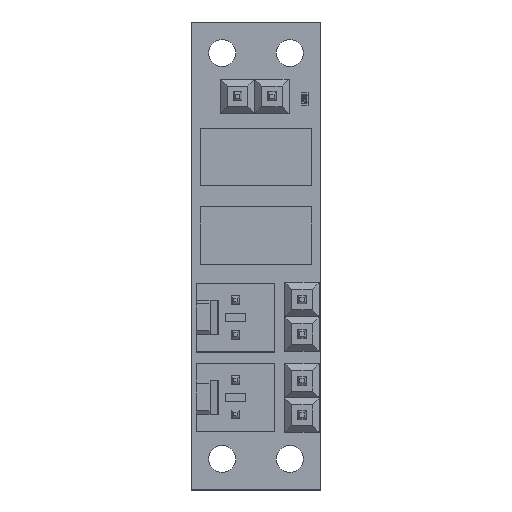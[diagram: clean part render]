
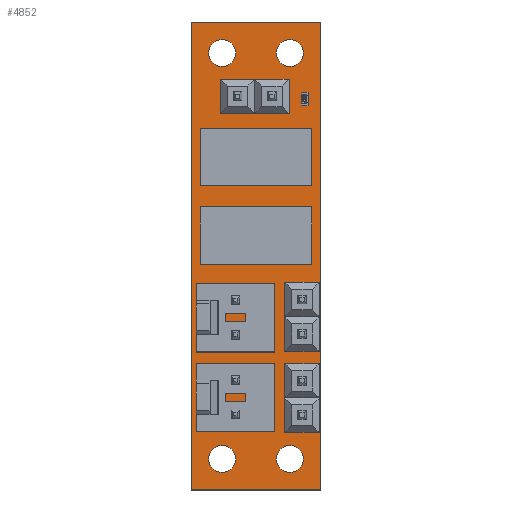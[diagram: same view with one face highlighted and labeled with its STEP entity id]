
A CAD part, top view. The second image highlights one B-rep face of the part: STEP entity #4852.
In plain terms, the highlighted planar face has unit normal (0, 0, 1).
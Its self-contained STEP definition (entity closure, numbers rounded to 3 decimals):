
#317=CIRCLE('',#5206,0.508);
#319=CIRCLE('',#5209,0.508);
#321=CIRCLE('',#5212,0.508);
#323=CIRCLE('',#5215,0.555);
#325=CIRCLE('',#5218,0.555);
#327=CIRCLE('',#5221,0.555);
#329=CIRCLE('',#5224,0.555);
#331=CIRCLE('',#5227,0.508);
#333=CIRCLE('',#5230,0.508);
#335=CIRCLE('',#5233,0.508);
#336=CIRCLE('',#5235,1.);
#338=CIRCLE('',#5238,1.);
#340=CIRCLE('',#5241,1.);
#342=CIRCLE('',#5244,1.);
#384=FACE_BOUND('',#932,.T.);
#385=FACE_BOUND('',#933,.T.);
#386=FACE_BOUND('',#934,.T.);
#387=FACE_BOUND('',#935,.T.);
#388=FACE_BOUND('',#936,.T.);
#389=FACE_BOUND('',#937,.T.);
#390=FACE_BOUND('',#938,.T.);
#391=FACE_BOUND('',#939,.T.);
#392=FACE_BOUND('',#940,.T.);
#393=FACE_BOUND('',#941,.T.);
#394=FACE_BOUND('',#942,.T.);
#395=FACE_BOUND('',#943,.T.);
#396=FACE_BOUND('',#944,.T.);
#397=FACE_BOUND('',#945,.T.);
#658=FACE_OUTER_BOUND('',#931,.T.);
#931=EDGE_LOOP('',(#4224,#4225,#4226,#4227));
#932=EDGE_LOOP('',(#4228));
#933=EDGE_LOOP('',(#4229));
#934=EDGE_LOOP('',(#4230));
#935=EDGE_LOOP('',(#4231));
#936=EDGE_LOOP('',(#4232));
#937=EDGE_LOOP('',(#4233));
#938=EDGE_LOOP('',(#4234));
#939=EDGE_LOOP('',(#4235));
#940=EDGE_LOOP('',(#4236));
#941=EDGE_LOOP('',(#4237));
#942=EDGE_LOOP('',(#4238));
#943=EDGE_LOOP('',(#4239));
#944=EDGE_LOOP('',(#4240));
#945=EDGE_LOOP('',(#4241));
#1384=LINE('',#8240,#1817);
#1387=LINE('',#8246,#1820);
#1390=LINE('',#8252,#1823);
#1393=LINE('',#8256,#1826);
#1817=VECTOR('',#6363,10.);
#1820=VECTOR('',#6368,10.);
#1823=VECTOR('',#6373,10.);
#1826=VECTOR('',#6378,10.);
#2239=VERTEX_POINT('',#8152);
#2241=VERTEX_POINT('',#8158);
#2243=VERTEX_POINT('',#8164);
#2245=VERTEX_POINT('',#8170);
#2247=VERTEX_POINT('',#8176);
#2249=VERTEX_POINT('',#8182);
#2251=VERTEX_POINT('',#8188);
#2253=VERTEX_POINT('',#8194);
#2255=VERTEX_POINT('',#8200);
#2257=VERTEX_POINT('',#8206);
#2258=VERTEX_POINT('',#8210);
#2260=VERTEX_POINT('',#8216);
#2262=VERTEX_POINT('',#8222);
#2264=VERTEX_POINT('',#8228);
#2268=VERTEX_POINT('',#8237);
#2269=VERTEX_POINT('',#8239);
#2271=VERTEX_POINT('',#8245);
#2273=VERTEX_POINT('',#8251);
#2884=EDGE_CURVE('',#2239,#2239,#317,.T.);
#2887=EDGE_CURVE('',#2241,#2241,#319,.T.);
#2890=EDGE_CURVE('',#2243,#2243,#321,.T.);
#2893=EDGE_CURVE('',#2245,#2245,#323,.T.);
#2896=EDGE_CURVE('',#2247,#2247,#325,.T.);
#2899=EDGE_CURVE('',#2249,#2249,#327,.T.);
#2902=EDGE_CURVE('',#2251,#2251,#329,.T.);
#2905=EDGE_CURVE('',#2253,#2253,#331,.T.);
#2908=EDGE_CURVE('',#2255,#2255,#333,.T.);
#2911=EDGE_CURVE('',#2257,#2257,#335,.T.);
#2912=EDGE_CURVE('',#2258,#2258,#336,.T.);
#2915=EDGE_CURVE('',#2260,#2260,#338,.T.);
#2918=EDGE_CURVE('',#2262,#2262,#340,.T.);
#2921=EDGE_CURVE('',#2264,#2264,#342,.T.);
#2926=EDGE_CURVE('',#2269,#2268,#1384,.T.);
#2929=EDGE_CURVE('',#2271,#2269,#1387,.T.);
#2932=EDGE_CURVE('',#2273,#2271,#1390,.T.);
#2935=EDGE_CURVE('',#2268,#2273,#1393,.T.);
#4224=ORIENTED_EDGE('',*,*,#2935,.T.);
#4225=ORIENTED_EDGE('',*,*,#2932,.T.);
#4226=ORIENTED_EDGE('',*,*,#2929,.T.);
#4227=ORIENTED_EDGE('',*,*,#2926,.T.);
#4228=ORIENTED_EDGE('',*,*,#2884,.T.);
#4229=ORIENTED_EDGE('',*,*,#2887,.T.);
#4230=ORIENTED_EDGE('',*,*,#2890,.T.);
#4231=ORIENTED_EDGE('',*,*,#2893,.T.);
#4232=ORIENTED_EDGE('',*,*,#2896,.T.);
#4233=ORIENTED_EDGE('',*,*,#2899,.T.);
#4234=ORIENTED_EDGE('',*,*,#2902,.T.);
#4235=ORIENTED_EDGE('',*,*,#2905,.T.);
#4236=ORIENTED_EDGE('',*,*,#2908,.T.);
#4237=ORIENTED_EDGE('',*,*,#2911,.T.);
#4238=ORIENTED_EDGE('',*,*,#2921,.T.);
#4239=ORIENTED_EDGE('',*,*,#2918,.T.);
#4240=ORIENTED_EDGE('',*,*,#2915,.T.);
#4241=ORIENTED_EDGE('',*,*,#2912,.T.);
#4441=PLANE('',#5250);
#4852=ADVANCED_FACE('',(#658,#384,#385,#386,#387,#388,#389,#390,#391,#392,
#393,#394,#395,#396,#397),#4441,.T.);
#5206=AXIS2_PLACEMENT_3D('',#8154,#6266,#6267);
#5209=AXIS2_PLACEMENT_3D('',#8160,#6273,#6274);
#5212=AXIS2_PLACEMENT_3D('',#8166,#6280,#6281);
#5215=AXIS2_PLACEMENT_3D('',#8172,#6287,#6288);
#5218=AXIS2_PLACEMENT_3D('',#8178,#6294,#6295);
#5221=AXIS2_PLACEMENT_3D('',#8184,#6301,#6302);
#5224=AXIS2_PLACEMENT_3D('',#8190,#6308,#6309);
#5227=AXIS2_PLACEMENT_3D('',#8196,#6315,#6316);
#5230=AXIS2_PLACEMENT_3D('',#8202,#6322,#6323);
#5233=AXIS2_PLACEMENT_3D('',#8208,#6329,#6330);
#5235=AXIS2_PLACEMENT_3D('',#8211,#6333,#6334);
#5238=AXIS2_PLACEMENT_3D('',#8217,#6340,#6341);
#5241=AXIS2_PLACEMENT_3D('',#8223,#6347,#6348);
#5244=AXIS2_PLACEMENT_3D('',#8229,#6354,#6355);
#5250=AXIS2_PLACEMENT_3D('',#8257,#6379,#6380);
#6266=DIRECTION('center_axis',(0.,0.,-1.));
#6267=DIRECTION('ref_axis',(1.,0.,0.));
#6273=DIRECTION('center_axis',(0.,0.,-1.));
#6274=DIRECTION('ref_axis',(1.,0.,0.));
#6280=DIRECTION('center_axis',(0.,0.,-1.));
#6281=DIRECTION('ref_axis',(1.,0.,0.));
#6287=DIRECTION('center_axis',(0.,0.,-1.));
#6288=DIRECTION('ref_axis',(1.,0.,0.));
#6294=DIRECTION('center_axis',(0.,0.,-1.));
#6295=DIRECTION('ref_axis',(1.,0.,0.));
#6301=DIRECTION('center_axis',(0.,0.,-1.));
#6302=DIRECTION('ref_axis',(1.,0.,0.));
#6308=DIRECTION('center_axis',(0.,0.,-1.));
#6309=DIRECTION('ref_axis',(1.,0.,0.));
#6315=DIRECTION('center_axis',(0.,0.,-1.));
#6316=DIRECTION('ref_axis',(1.,0.,0.));
#6322=DIRECTION('center_axis',(0.,0.,-1.));
#6323=DIRECTION('ref_axis',(1.,0.,0.));
#6329=DIRECTION('center_axis',(0.,0.,-1.));
#6330=DIRECTION('ref_axis',(1.,0.,0.));
#6333=DIRECTION('center_axis',(0.,0.,-1.));
#6334=DIRECTION('ref_axis',(1.,0.,0.));
#6340=DIRECTION('center_axis',(0.,0.,-1.));
#6341=DIRECTION('ref_axis',(1.,0.,0.));
#6347=DIRECTION('center_axis',(0.,0.,-1.));
#6348=DIRECTION('ref_axis',(1.,0.,0.));
#6354=DIRECTION('center_axis',(0.,0.,-1.));
#6355=DIRECTION('ref_axis',(1.,0.,0.));
#6363=DIRECTION('',(-1.,0.,0.));
#6368=DIRECTION('',(0.,1.,0.));
#6373=DIRECTION('',(1.,0.,0.));
#6378=DIRECTION('',(0.,-1.,0.));
#6379=DIRECTION('center_axis',(0.,0.,1.));
#6380=DIRECTION('ref_axis',(1.,0.,0.));
#8152=CARTESIAN_POINT('',(7.892,11.7,1.5));
#8154=CARTESIAN_POINT('Origin',(8.4,11.7,1.5));
#8158=CARTESIAN_POINT('',(7.892,5.7,1.5));
#8160=CARTESIAN_POINT('Origin',(8.4,5.7,1.5));
#8164=CARTESIAN_POINT('',(5.692,29.3,1.5));
#8166=CARTESIAN_POINT('Origin',(6.2,29.3,1.5));
#8170=CARTESIAN_POINT('',(2.945,11.7,1.5));
#8172=CARTESIAN_POINT('Origin',(3.5,11.7,1.5));
#8176=CARTESIAN_POINT('',(2.945,5.8,1.5));
#8178=CARTESIAN_POINT('Origin',(3.5,5.8,1.5));
#8182=CARTESIAN_POINT('',(2.945,8.34,1.5));
#8184=CARTESIAN_POINT('Origin',(3.5,8.34,1.5));
#8188=CARTESIAN_POINT('',(2.945,14.24,1.5));
#8190=CARTESIAN_POINT('Origin',(3.5,14.24,1.5));
#8194=CARTESIAN_POINT('',(3.152,29.3,1.5));
#8196=CARTESIAN_POINT('Origin',(3.66,29.3,1.5));
#8200=CARTESIAN_POINT('',(7.892,8.24,1.5));
#8202=CARTESIAN_POINT('Origin',(8.4,8.24,1.5));
#8206=CARTESIAN_POINT('',(7.892,14.24,1.5));
#8208=CARTESIAN_POINT('Origin',(8.4,14.24,1.5));
#8210=CARTESIAN_POINT('',(1.5,2.5,1.5));
#8211=CARTESIAN_POINT('Origin',(2.5,2.5,1.5));
#8216=CARTESIAN_POINT('',(1.5,32.5,1.5));
#8217=CARTESIAN_POINT('Origin',(2.5,32.5,1.5));
#8222=CARTESIAN_POINT('',(6.5,2.5,1.5));
#8223=CARTESIAN_POINT('Origin',(7.5,2.5,1.5));
#8228=CARTESIAN_POINT('',(6.5,32.5,1.5));
#8229=CARTESIAN_POINT('Origin',(7.5,32.5,1.5));
#8237=CARTESIAN_POINT('',(0.2,34.8,1.5));
#8239=CARTESIAN_POINT('',(9.8,34.8,1.5));
#8240=CARTESIAN_POINT('',(9.8,34.8,1.5));
#8245=CARTESIAN_POINT('',(9.8,0.2,1.5));
#8246=CARTESIAN_POINT('',(9.8,0.2,1.5));
#8251=CARTESIAN_POINT('',(0.2,0.2,1.5));
#8252=CARTESIAN_POINT('',(0.2,0.2,1.5));
#8256=CARTESIAN_POINT('',(0.2,34.8,1.5));
#8257=CARTESIAN_POINT('Origin',(5.,17.5,1.5));
